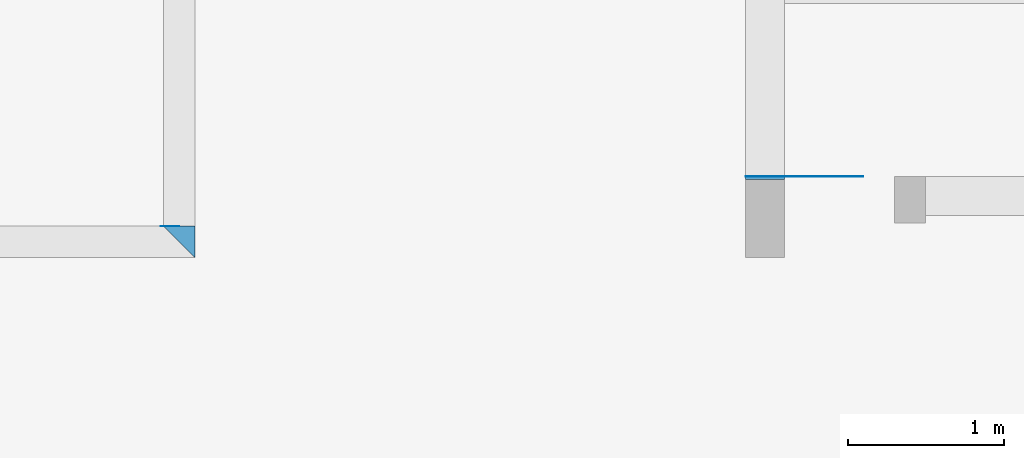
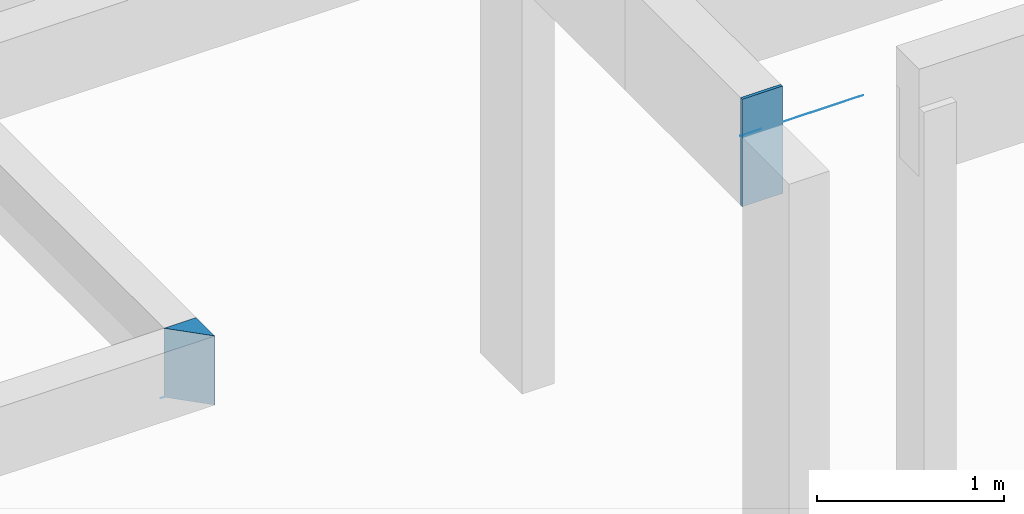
# One storey, part 4 of 17: 5 beams.
"""IFC2X3 building model written with IfcOpenShell, lengths in metres."""

from ifc_helpers import new_model, si_unit, direction, frame, origin_with_axes, place, context, subcontext, project, spatial, polyline, outline, extrude, material, type_object, element, save


model = new_model("IFC2X3")

# Units and contexts
model_context = context("Model", 3, precision=0.0001, world=origin_with_axes(), true_north=direction((0.0, 1.0)))
plan_context = context("Plan", 2, precision=0.0001, world=origin_with_axes(), true_north=direction((0.0, 1.0)))
body_context = subcontext(model_context, "Body", "Model", "MODEL_VIEW")
ifc_project = project(units=[si_unit("MASSUNIT", "GRAM", prefix="KILO"), si_unit("AREAUNIT", "SQUARE_METRE"), si_unit("LENGTHUNIT", "METRE"), si_unit("VOLUMEUNIT", "CUBIC_METRE")], contexts=[plan_context, model_context])

# Site, building, storey
site_placement = place(None, origin_with_axes())
site = spatial("IfcSite", under=ifc_project, at=site_placement, Name="$", CompositionType="ELEMENT")
building_placement = place(site_placement, origin_with_axes())
building = spatial("IfcBuilding", under=site, at=building_placement, Name="Classeur ENS Ensemble", CompositionType="ELEMENT")
storey_placement = place(building_placement, frame((-20.30778888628, -1.812671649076, 0.0), z_axis=(0.0, 0.0, 1.0), x_axis=(1.0, 0.0, 0.0)))
storey = spatial("IfcBuildingStorey", under=building, at=storey_placement, Name="001 RdC", CompositionType="ELEMENT", Elevation=0.0)

# Beams
ifc_material = material(Name="Default material")
beam_type = type_object("IfcBeamType", PredefinedType="BEAM")
beam_1_placement = place(storey_placement, frame((24.91829531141, -5.287328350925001, 2.599999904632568), z_axis=(0.0, 0.0, 1.0), x_axis=(0.0, 1.0, 0.0)))
element("IfcBeam", 1, at=beam_1_placement, inside=storey, type_object=beam_type, material=ifc_material, Name="poutre BA", context=body_context, shape_type="SweptSolid", held_by="IfcProductRepresentation", body=[
    extrude(outline(polyline([(0.0, 0.125), (0.0, 0.125), (0.0, 0.125), (0.01985665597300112, 0.125), (0.01985665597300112, 0.125), (0.01985665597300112, 0.125), (0.01985665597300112, -0.125), (0.01985665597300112, -0.125), (0.01985665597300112, -0.125), (0.0, -0.125), (0.0, -0.125), (0.0, -0.125), (0.0, 0.125)])), origin_with_axes(), (0.0, 0.0, 1.0), 0.699999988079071),
])
beam_2_placement = place(storey_placement, frame((24.7932953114, -5.267471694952, 3.049999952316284), z_axis=(0.0, 0.0, 1.0), x_axis=(1.0, 0.0, 0.0)))
element("IfcBeam", 2, at=beam_2_placement, inside=storey, type_object=beam_type, material=ifc_material, Name="poutre fictive", context=body_context, shape_type="SweptSolid", held_by="IfcProductRepresentation", body=[
    extrude(outline(polyline([(0.0, 0.0009999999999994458), (0.0, 0.0009999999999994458), (0.0, 0.0009999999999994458), (0.1250000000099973, 0.0009999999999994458), (0.1250000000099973, 0.0009999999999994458), (0.1250000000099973, 0.0009999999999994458), (0.1250000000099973, -0.001000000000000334), (0.1250000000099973, -0.001000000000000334), (0.1250000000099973, -0.001000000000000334), (0.0, -0.001000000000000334), (0.0, -0.001000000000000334), (0.0, -0.001000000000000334), (0.0, 0.0009999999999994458)])), origin_with_axes(), (0.0, 0.0, 1.0), 0.001),
])
beam_3_placement = place(storey_placement, frame((24.91829531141, -5.267471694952, 3.049999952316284), z_axis=(0.0, 0.0, 1.0), x_axis=(1.0, 0.0, 0.0)))
element("IfcBeam", 3, at=beam_3_placement, inside=storey, type_object=beam_type, material=ifc_material, Name="poutre fictive", context=body_context, shape_type="SweptSolid", held_by="IfcProductRepresentation", body=[
    extrude(outline(polyline([(0.0, 0.0009999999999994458), (0.0, 0.0009999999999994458), (0.0, 0.0009999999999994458), (0.6327700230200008, 0.0009999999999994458), (0.6327700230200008, 0.0009999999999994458), (0.6327700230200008, 0.0009999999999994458), (0.6327700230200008, -0.001000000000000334), (0.6327700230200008, -0.001000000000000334), (0.6327700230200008, -0.001000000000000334), (0.0, -0.001000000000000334), (0.0, -0.001000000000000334), (0.0, -0.001000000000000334), (0.0, 0.0009999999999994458)])), origin_with_axes(), (0.0, 0.0, 1.0), 0.001),
])
beam_4_placement = place(storey_placement, frame((21.0332953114, -5.587328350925, 2.849999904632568), z_axis=(0.0, 0.0, 1.0), x_axis=(1.0, 0.0, 0.0)))
element("IfcBeam", 4, at=beam_4_placement, inside=storey, type_object=beam_type, material=ifc_material, Name="poutre fictive 285", context=body_context, shape_type="SweptSolid", held_by="IfcProductRepresentation", body=[
    extrude(outline(polyline([(0.0, 0.001000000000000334), (0.0, 0.001000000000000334), (0.0, 0.001000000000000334), (0.120000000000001, 0.001000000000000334), (0.120000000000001, 0.001000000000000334), (0.120000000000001, 0.001000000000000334), (0.120000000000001, -0.001000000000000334), (0.120000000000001, -0.001000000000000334), (0.120000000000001, -0.001000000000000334), (0.0, -0.001000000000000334), (0.0, -0.001000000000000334), (0.0, -0.001000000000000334), (0.0, 0.001000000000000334)])), origin_with_axes(), (0.0, 0.0, 1.0), 0.001),
])
beam_5_placement = place(storey_placement, frame((21.1532953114, -5.687328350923, 2.849999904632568), z_axis=(0.0, 0.0, 1.0), x_axis=(0.0, 1.0, 0.0)))
element("IfcBeam", 5, at=beam_5_placement, inside=storey, type_object=beam_type, material=ifc_material, Name="poutre BA", context=body_context, shape_type="SweptSolid", held_by="IfcProductRepresentation", body=[
    extrude(outline(polyline([(0.1000000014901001, 0.1000000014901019), (0.1000000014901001, 0.1000000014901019), (0.1000000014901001, 0.1000000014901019), (0.09999999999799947, 0.1000000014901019), (0.09999999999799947, 0.1000000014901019), (0.09999999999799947, 0.1000000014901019), (0.09999999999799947, -0.1000000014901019), (0.09999999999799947, -0.1000000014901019), (0.09999999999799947, -0.1000000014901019), (-0.1000000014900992, -0.1000000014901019), (-0.1000000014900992, -0.1000000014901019), (-0.1000000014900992, -0.1000000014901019), (0.1000000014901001, 0.1000000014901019)])), origin_with_axes(), (0.0, 0.0, 1.0), 0.449999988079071),
])

save(model, "model.ifc")
